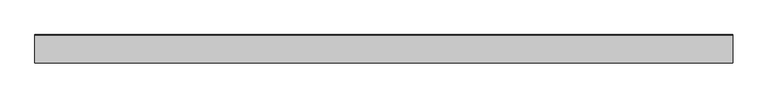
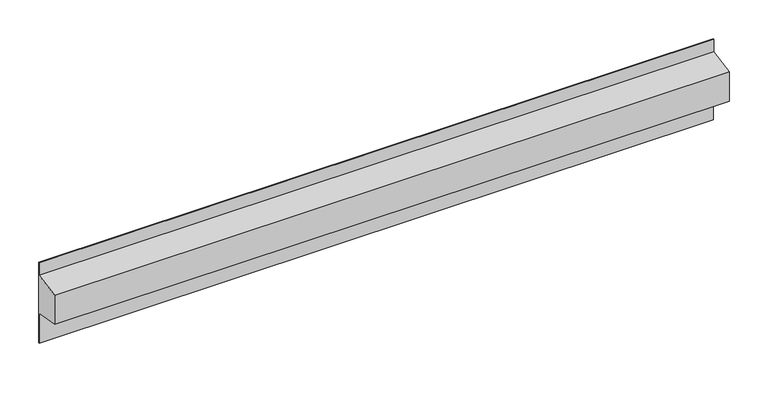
"""IFC4 building model written with IfcOpenShell, lengths in millimetres: plate geometry, ATELIERS 3S_NEW YORK MANHATTAN 780_HORIZONTAL : AZURO."""

from ifc_helpers import new_model, si_unit, frame, origin, place, context, project, spatial, polyline, outline, extrude, source, transform, mapped, element, save


def plate_340c9a2c(model_context):
    return source(origin(), model_context, "Body", "SweptSolid", [
        extrude(outline(polyline([(-40.75, 99.4916131), (-0.8, 106.535876), (-0.8, 126.54), (0.0, 126.54), (0.0, 0.0), (-0.75, 0.0), (-0.75, 46.8092092), (-40.75, 53.8622884), (-40.75, 99.4916131)])), frame((-500.0, 0.0, 0.0), z_axis=(1.0, 0.0, 0.0), x_axis=(0.0, 1.0, 0.0)), (0.0, 0.0, 1.0), 1000.0),
    ])


if __name__ == "__main__":
    model = new_model("IFC4")
    model_context = context("Model", 3, world=origin())
    ifc_project = project(units=[si_unit("LENGTHUNIT", "METRE", prefix="MILLI")], contexts=[model_context])
    site = spatial("IfcSite", under=ifc_project)
    building = spatial("IfcBuilding", under=site)
    placement = place(None, origin())
    plate_shape = plate_340c9a2c(model_context)
    element("IfcPlate", 1, ObjectType="ATELIERS 3S_NEW YORK MANHATTAN 780_HORIZONTAL : AZURO", at=placement, inside=building, context=model_context, shape_type="MappedRepresentation", body=[
        mapped(plate_shape, transform((0.0, 0.0, 0.0), x_axis=(1.0, 0.0, 0.0), y_axis=(0.0, 1.0, 0.0), z_axis=(0.0, 0.0, 1.0))),
    ])
    save(model, "model.ifc")
